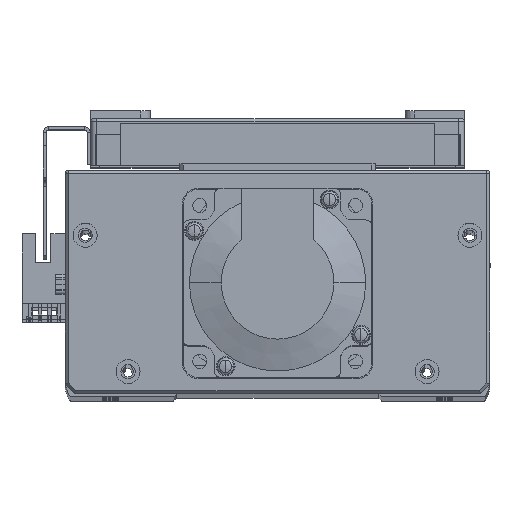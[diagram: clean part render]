
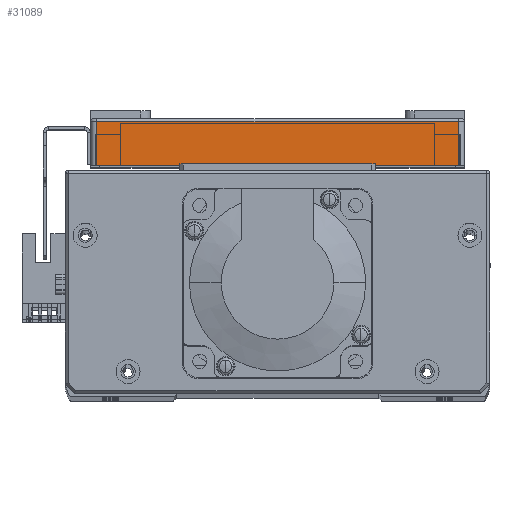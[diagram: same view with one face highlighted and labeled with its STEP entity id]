
A CAD part, top view. The second image highlights one B-rep face of the part: STEP entity #31089.
In plain terms, the highlighted planar face has unit normal (0, 0, 1) as drawn and (-1, 0, 0) by its records, which use the part's own axes.
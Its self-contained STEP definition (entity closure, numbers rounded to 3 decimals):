
#1103 = PLANE ( 'NONE',  #2241 ) ;
#1123 = CARTESIAN_POINT ( 'NONE',  ( -95., 15., -59.5 ) ) ;
#1135 = DIRECTION ( 'NONE',  ( 0., 0., -1. ) ) ;
#1150 = DIRECTION ( 'NONE',  ( 1., 0., 0. ) ) ;
#2241 = AXIS2_PLACEMENT_3D ( 'NONE', #1123, #1150, #1135 ) ;
#3512 = VERTEX_POINT ( 'NONE', #39133 ) ;
#3555 = VERTEX_POINT ( 'NONE', #39277 ) ;
#3556 = VERTEX_POINT ( 'NONE', #39195 ) ;
#3590 = VERTEX_POINT ( 'NONE', #39194 ) ;
#6989 = CARTESIAN_POINT ( 'NONE',  ( -95., 15., 57.5 ) ) ;
#6993 = DIRECTION ( 'NONE',  ( 0., 1., 0. ) ) ;
#7130 = CARTESIAN_POINT ( 'NONE',  ( -95., 0., -59.5 ) ) ;
#7134 = DIRECTION ( 'NONE',  ( 0., 0., 1. ) ) ;
#7226 = CARTESIAN_POINT ( 'NONE',  ( -95., 14., -57.5 ) ) ;
#7228 = DIRECTION ( 'NONE',  ( 0., 0., -1. ) ) ;
#10061 = VECTOR ( 'NONE', #6993, 1000. ) ;
#10133 = LINE ( 'NONE', #6989, #10061 ) ;
#10187 = VECTOR ( 'NONE', #7134, 1000. ) ;
#10251 = LINE ( 'NONE', #7130, #10187 ) ;
#10326 = LINE ( 'NONE', #7226, #10388 ) ;
#10388 = VECTOR ( 'NONE', #7228, 1000. ) ;
#10431 = VECTOR ( 'NONE', #15625, 1000. ) ;
#10504 = LINE ( 'NONE', #15620, #10431 ) ;
#15620 = CARTESIAN_POINT ( 'NONE',  ( -95., 15., -57.5 ) ) ;
#15625 = DIRECTION ( 'NONE',  ( 0., -1., 0. ) ) ;
#18621 = FACE_OUTER_BOUND ( 'NONE', #52895, .T. ) ;
#26502 = EDGE_CURVE ( 'NONE', #3590, #3555, #10133, .T. ) ;
#26538 = EDGE_CURVE ( 'NONE', #3556, #3590, #10251, .T. ) ;
#26550 = EDGE_CURVE ( 'NONE', #3555, #3512, #10326, .T. ) ;
#26609 = EDGE_CURVE ( 'NONE', #3512, #3556, #10504, .T. ) ;
#31089 = ADVANCED_FACE ( 'NONE', ( #18621 ), #1103, .F. ) ;
#39133 = CARTESIAN_POINT ( 'NONE',  ( -95., 14., -57.5 ) ) ;
#39194 = CARTESIAN_POINT ( 'NONE',  ( -95., 0., 57.5 ) ) ;
#39195 = CARTESIAN_POINT ( 'NONE',  ( -95., 0., -57.5 ) ) ;
#39277 = CARTESIAN_POINT ( 'NONE',  ( -95., 14., 57.5 ) ) ;
#41267 = ORIENTED_EDGE ( 'NONE', *, *, #26502, .T. ) ;
#41302 = ORIENTED_EDGE ( 'NONE', *, *, #26609, .T. ) ;
#41370 = ORIENTED_EDGE ( 'NONE', *, *, #26550, .T. ) ;
#41410 = ORIENTED_EDGE ( 'NONE', *, *, #26538, .T. ) ;
#52895 = EDGE_LOOP ( 'NONE', ( #41267, #41370, #41302, #41410 ) ) ;
